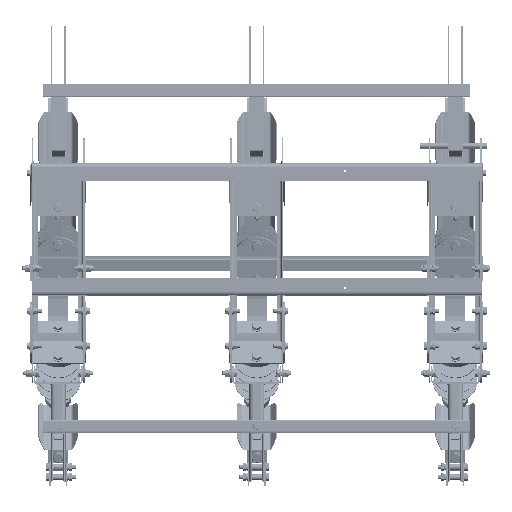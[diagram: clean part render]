
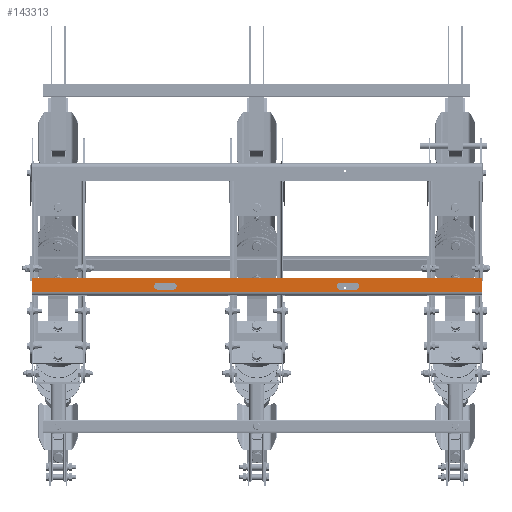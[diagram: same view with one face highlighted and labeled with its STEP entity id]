
A CAD part, front view. The second image highlights one B-rep face of the part: STEP entity #143313.
In plain terms, the highlighted planar face has unit normal (0, -1, 0).
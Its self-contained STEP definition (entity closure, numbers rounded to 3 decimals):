
#2132 = CARTESIAN_POINT ( 'NONE',  ( -167., -0.001, -106.239 ) ) ;
#2345 = ORIENTED_EDGE ( 'NONE', *, *, #195619, .T. ) ;
#6882 = CARTESIAN_POINT ( 'NONE',  ( 450., -0.001, -96.739 ) ) ;
#9937 = CARTESIAN_POINT ( 'NONE',  ( 167., -0.001, -120.239 ) ) ;
#12190 = DIRECTION ( 'NONE',  ( 0., 0., -1. ) ) ;
#13987 = CIRCLE ( 'NONE', #232667, 7. ) ;
#14033 = CARTESIAN_POINT ( 'NONE',  ( 167., -0.001, -113.239 ) ) ;
#16199 = EDGE_CURVE ( 'NONE', #176840, #55616, #36669, .T. ) ;
#19400 = LINE ( 'NONE', #122723, #121627 ) ;
#19485 = CARTESIAN_POINT ( 'NONE',  ( -450., -0.001, -124.5 ) ) ;
#21261 = VERTEX_POINT ( 'NONE', #66152 ) ;
#21944 = DIRECTION ( 'NONE',  ( 1., 0., 0. ) ) ;
#32657 = PLANE ( 'NONE',  #71004 ) ;
#35898 = DIRECTION ( 'NONE',  ( 0., 0., 1. ) ) ;
#36669 = LINE ( 'NONE', #152344, #152566 ) ;
#38713 = CARTESIAN_POINT ( 'NONE',  ( -167., -0.001, -120.239 ) ) ;
#40722 = VECTOR ( 'NONE', #245333, 1000. ) ;
#41175 = AXIS2_PLACEMENT_3D ( 'NONE', #116794, #268978, #138595 ) ;
#41421 = ORIENTED_EDGE ( 'NONE', *, *, #16199, .T. ) ;
#41477 = AXIS2_PLACEMENT_3D ( 'NONE', #14033, #166368, #35898 ) ;
#41813 = ORIENTED_EDGE ( 'NONE', *, *, #52586, .T. ) ;
#42594 = VERTEX_POINT ( 'NONE', #2132 ) ;
#42818 = VECTOR ( 'NONE', #193366, 1000. ) ;
#45069 = ORIENTED_EDGE ( 'NONE', *, *, #160005, .T. ) ;
#45781 = EDGE_CURVE ( 'NONE', #171521, #42594, #19400, .T. ) ;
#46991 = AXIS2_PLACEMENT_3D ( 'NONE', #226536, #96072, #248319 ) ;
#52525 = CARTESIAN_POINT ( 'NONE',  ( -450., -0.001, -96.739 ) ) ;
#52529 = LINE ( 'NONE', #52525, #161552 ) ;
#52586 = EDGE_CURVE ( 'NONE', #112335, #176840, #260044, .T. ) ;
#55616 = VERTEX_POINT ( 'NONE', #98123 ) ;
#61694 = VERTEX_POINT ( 'NONE', #251972 ) ;
#63867 = VECTOR ( 'NONE', #183379, 1000. ) ;
#66152 = CARTESIAN_POINT ( 'NONE',  ( -198., -0.001, -120.239 ) ) ;
#67917 = VERTEX_POINT ( 'NONE', #6882 ) ;
#71004 = AXIS2_PLACEMENT_3D ( 'NONE', #250660, #120372, #272550 ) ;
#73595 = EDGE_CURVE ( 'NONE', #55616, #61694, #186610, .T. ) ;
#79749 = ORIENTED_EDGE ( 'NONE', *, *, #127127, .T. ) ;
#80456 = VERTEX_POINT ( 'NONE', #114840 ) ;
#80787 = DIRECTION ( 'NONE',  ( 0., 0., 1. ) ) ;
#90090 = EDGE_LOOP ( 'NONE', ( #41421, #135426, #280473, #41813 ) ) ;
#92012 = CIRCLE ( 'NONE', #46991, 7. ) ;
#92954 = ORIENTED_EDGE ( 'NONE', *, *, #45781, .T. ) ;
#96072 = DIRECTION ( 'NONE',  ( 0., 1., 0. ) ) ;
#98123 = CARTESIAN_POINT ( 'NONE',  ( 198., -0.001, -106.239 ) ) ;
#103463 = ORIENTED_EDGE ( 'NONE', *, *, #112481, .T. ) ;
#112335 = VERTEX_POINT ( 'NONE', #180886 ) ;
#112481 = EDGE_CURVE ( 'NONE', #42594, #178520, #13987, .T. ) ;
#114840 = CARTESIAN_POINT ( 'NONE',  ( 450., -0.001, -124.5 ) ) ;
#116794 = CARTESIAN_POINT ( 'NONE',  ( 198., -0.001, -113.239 ) ) ;
#120372 = DIRECTION ( 'NONE',  ( 0., -1., 0. ) ) ;
#121627 = VECTOR ( 'NONE', #210273, 1000. ) ;
#122723 = CARTESIAN_POINT ( 'NONE',  ( -167., -0.001, -106.239 ) ) ;
#124819 = CARTESIAN_POINT ( 'NONE',  ( -198., -0.001, -120.239 ) ) ;
#127127 = EDGE_CURVE ( 'NONE', #178520, #21261, #267608, .T. ) ;
#131396 = EDGE_CURVE ( 'NONE', #281127, #80456, #267954, .T. ) ;
#133143 = CARTESIAN_POINT ( 'NONE',  ( 450., -0.001, -96.739 ) ) ;
#134243 = CARTESIAN_POINT ( 'NONE',  ( 167., -0.001, -106.239 ) ) ;
#135426 = ORIENTED_EDGE ( 'NONE', *, *, #73595, .T. ) ;
#138595 = DIRECTION ( 'NONE',  ( 0., 0., -1. ) ) ;
#140538 = EDGE_CURVE ( 'NONE', #61694, #112335, #230811, .T. ) ;
#142527 = DIRECTION ( 'NONE',  ( 0., 1., 0. ) ) ;
#143313 = ADVANCED_FACE ( 'NONE', ( #226486, #277598, #168619 ), #32657, .T. ) ;
#145404 = CARTESIAN_POINT ( 'NONE',  ( -450., -0.001, -124.5 ) ) ;
#146800 = ORIENTED_EDGE ( 'NONE', *, *, #208705, .T. ) ;
#152344 = CARTESIAN_POINT ( 'NONE',  ( 198., -0.001, -106.239 ) ) ;
#152566 = VECTOR ( 'NONE', #21944, 1000. ) ;
#152654 = EDGE_LOOP ( 'NONE', ( #173841, #2345, #45069, #146800 ) ) ;
#159479 = EDGE_CURVE ( 'NONE', #21261, #171521, #92012, .T. ) ;
#160005 = EDGE_CURVE ( 'NONE', #67917, #250139, #214576, .T. ) ;
#161552 = VECTOR ( 'NONE', #271469, 1000. ) ;
#166368 = DIRECTION ( 'NONE',  ( 0., 1., 0. ) ) ;
#168619 = FACE_BOUND ( 'NONE', #248908, .T. ) ;
#171521 = VERTEX_POINT ( 'NONE', #207038 ) ;
#173841 = ORIENTED_EDGE ( 'NONE', *, *, #131396, .T. ) ;
#176840 = VERTEX_POINT ( 'NONE', #134243 ) ;
#178520 = VERTEX_POINT ( 'NONE', #38713 ) ;
#180886 = CARTESIAN_POINT ( 'NONE',  ( 167., -0.001, -120.239 ) ) ;
#183379 = DIRECTION ( 'NONE',  ( -1., 0., 0. ) ) ;
#186610 = CIRCLE ( 'NONE', #41175, 7. ) ;
#193366 = DIRECTION ( 'NONE',  ( -1., 0., 0. ) ) ;
#195619 = EDGE_CURVE ( 'NONE', #80456, #67917, #235253, .T. ) ;
#204039 = ORIENTED_EDGE ( 'NONE', *, *, #159479, .T. ) ;
#207038 = CARTESIAN_POINT ( 'NONE',  ( -198., -0.001, -106.239 ) ) ;
#208705 = EDGE_CURVE ( 'NONE', #250139, #281127, #52529, .T. ) ;
#210273 = DIRECTION ( 'NONE',  ( 1., 0., 0. ) ) ;
#211282 = CARTESIAN_POINT ( 'NONE',  ( 450., -0.001, -124.5 ) ) ;
#214352 = CARTESIAN_POINT ( 'NONE',  ( -450., -0.001, -96.739 ) ) ;
#214576 = LINE ( 'NONE', #133143, #40722 ) ;
#226486 = FACE_OUTER_BOUND ( 'NONE', #152654, .T. ) ;
#226536 = CARTESIAN_POINT ( 'NONE',  ( -198., -0.001, -113.239 ) ) ;
#228450 = VECTOR ( 'NONE', #80787, 1000. ) ;
#230811 = LINE ( 'NONE', #9937, #63867 ) ;
#232667 = AXIS2_PLACEMENT_3D ( 'NONE', #273016, #142527, #12190 ) ;
#235253 = LINE ( 'NONE', #211282, #228450 ) ;
#240689 = VECTOR ( 'NONE', #282152, 1000. ) ;
#245333 = DIRECTION ( 'NONE',  ( -1., 0., 0. ) ) ;
#248319 = DIRECTION ( 'NONE',  ( 0., 0., 1. ) ) ;
#248908 = EDGE_LOOP ( 'NONE', ( #204039, #92954, #103463, #79749 ) ) ;
#250139 = VERTEX_POINT ( 'NONE', #214352 ) ;
#250660 = CARTESIAN_POINT ( 'NONE',  ( 0., -0.001, -96.739 ) ) ;
#251972 = CARTESIAN_POINT ( 'NONE',  ( 198., -0.001, -120.239 ) ) ;
#260044 = CIRCLE ( 'NONE', #41477, 7. ) ;
#267608 = LINE ( 'NONE', #124819, #42818 ) ;
#267954 = LINE ( 'NONE', #19485, #240689 ) ;
#268978 = DIRECTION ( 'NONE',  ( 0., 1., 0. ) ) ;
#271469 = DIRECTION ( 'NONE',  ( 0., 0., -1. ) ) ;
#272550 = DIRECTION ( 'NONE',  ( 0., 0., -1. ) ) ;
#273016 = CARTESIAN_POINT ( 'NONE',  ( -167., -0.001, -113.239 ) ) ;
#277598 = FACE_BOUND ( 'NONE', #90090, .T. ) ;
#280473 = ORIENTED_EDGE ( 'NONE', *, *, #140538, .T. ) ;
#281127 = VERTEX_POINT ( 'NONE', #145404 ) ;
#282152 = DIRECTION ( 'NONE',  ( 1., 0., 0. ) ) ;
